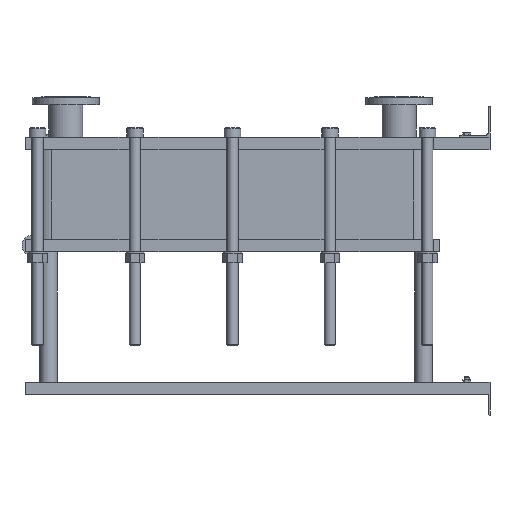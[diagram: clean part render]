
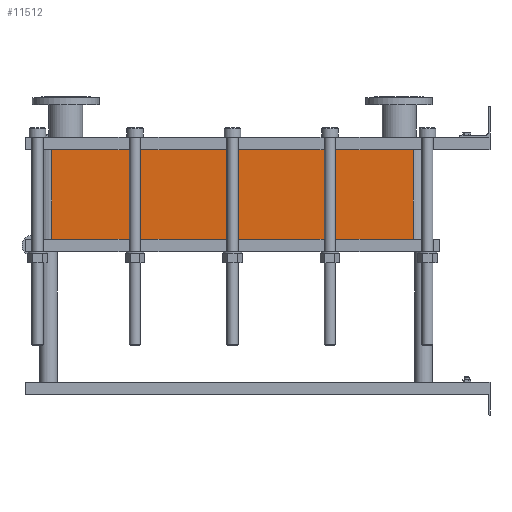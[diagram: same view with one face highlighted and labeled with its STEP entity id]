
A CAD part, left-side view. The second image highlights one B-rep face of the part: STEP entity #11512.
In plain terms, the highlighted planar face has unit normal (-1, 0, 0).
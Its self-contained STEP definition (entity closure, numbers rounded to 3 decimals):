
#1129=LINE('',#23232,#2102);
#1130=LINE('',#23236,#2103);
#1131=LINE('',#23238,#2104);
#1132=LINE('',#23239,#2105);
#2102=VECTOR('',#15887,10.);
#2103=VECTOR('',#15892,10.);
#2104=VECTOR('',#15893,10.);
#2105=VECTOR('',#15894,10.);
#3267=FACE_OUTER_BOUND('',#4093,.T.);
#4093=EDGE_LOOP('',(#10103,#10104,#10105,#10106));
#5642=VERTEX_POINT('',#23229);
#5643=VERTEX_POINT('',#23231);
#5644=VERTEX_POINT('',#23235);
#5645=VERTEX_POINT('',#23237);
#7159=EDGE_CURVE('',#5643,#5642,#1129,.T.);
#7161=EDGE_CURVE('',#5642,#5644,#1130,.T.);
#7162=EDGE_CURVE('',#5645,#5644,#1131,.T.);
#7163=EDGE_CURVE('',#5645,#5643,#1132,.T.);
#10103=ORIENTED_EDGE('',*,*,#7161,.T.);
#10104=ORIENTED_EDGE('',*,*,#7162,.F.);
#10105=ORIENTED_EDGE('',*,*,#7163,.T.);
#10106=ORIENTED_EDGE('',*,*,#7159,.T.);
#10857=PLANE('',#12751);
#11512=ADVANCED_FACE('',(#3267),#10857,.T.);
#12751=AXIS2_PLACEMENT_3D('',#23234,#15890,#15891);
#15887=DIRECTION('',(0.,0.,-1.));
#15890=DIRECTION('center_axis',(-1.,0.,0.));
#15891=DIRECTION('ref_axis',(0.,1.,0.));
#15892=DIRECTION('',(0.,-1.,0.));
#15893=DIRECTION('',(0.,0.,-1.));
#15894=DIRECTION('',(0.,1.,0.));
#23229=CARTESIAN_POINT('',(-200.,1414.,-289.8));
#23231=CARTESIAN_POINT('',(-200.,1414.,0.));
#23232=CARTESIAN_POINT('',(-200.,1414.,0.));
#23234=CARTESIAN_POINT('Origin',(-200.,248.,0.));
#23235=CARTESIAN_POINT('',(-200.,248.,-289.8));
#23236=CARTESIAN_POINT('',(-200.,539.5,-289.8));
#23237=CARTESIAN_POINT('',(-200.,248.,0.));
#23238=CARTESIAN_POINT('',(-200.,248.,0.));
#23239=CARTESIAN_POINT('',(-200.,248.,0.));
